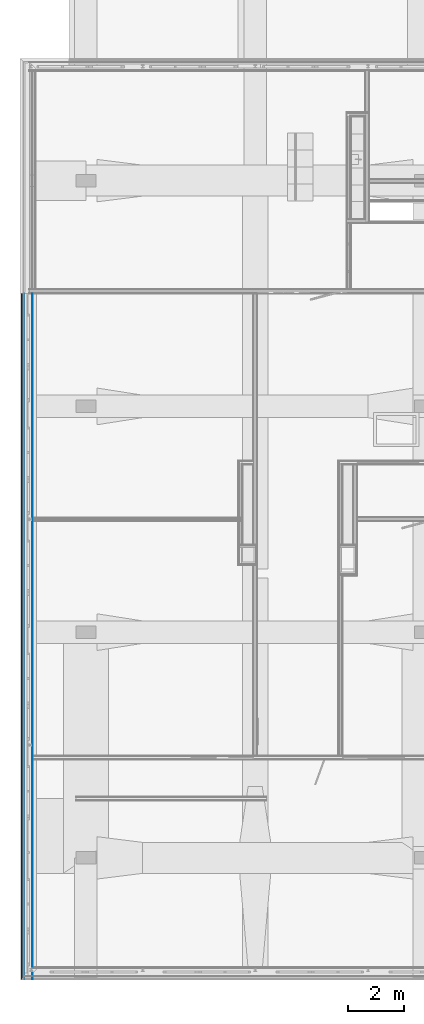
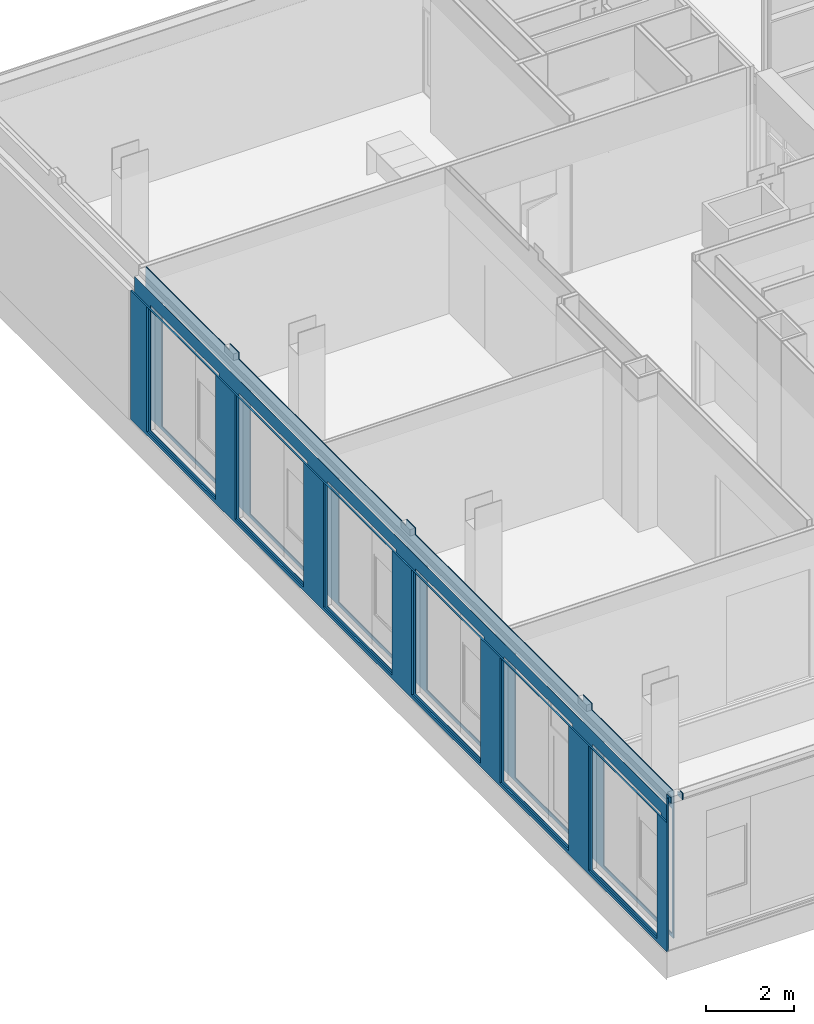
# One storey, part 36 of 94: 5 building element parts, 12 openings, 1 element without a shape of its own.
"""IFC2X3 building model written with IfcOpenShell, lengths in millimetres."""

import ifcopenshell
import ifcopenshell.guid

model = None  # the IFC model being written
_history = None  # IfcOwnerHistory: only IFC2X3 demands one
_inside = {}  # id of a spatial element -> (the spatial element, [elements in it])
_under = {}  # id of a project, library or spatial element -> (it, [spatial elements below it])
_declared = {}  # id of a project -> (the project, [libraries it declares])
_typed = {}  # id of a type object -> (the type object, [elements of that type])
_made_of = {}  # id of a material, layer set ... -> (it, [elements and type objects made of it])


def new_model(schema):
    """Start an empty IFC model of exactly this schema.

    Asked for "IFC4X3", IfcOpenShell would pick the latest addendum, in which some entities
    have other attributes; the version numbers below select the first issue.
    IFC2X3 requires an IfcOwnerHistory on every rooted entity: one is made here for all.
    """
    global model, _history
    if schema == "IFC4X3":
        model = ifcopenshell.file(schema_version=(4, 3, 0, 0))
    else:
        model = ifcopenshell.file(schema=schema)
    _inside.clear()
    _under.clear()
    _declared.clear()
    _typed.clear()
    _made_of.clear()
    _history = None
    if model.schema == "IFC2X3":
        org = make("IfcOrganization", Name="unknown")
        user = make(
            "IfcPersonAndOrganization",
            ThePerson=make("IfcPerson", FamilyName="unknown"),
            TheOrganization=org,
        )
        app = make(
            "IfcApplication",
            ApplicationDeveloper=org,
            Version="unknown",
            ApplicationFullName="unknown",
            ApplicationIdentifier="unknown",
        )
        _history = make(
            "IfcOwnerHistory",
            OwningUser=user,
            OwningApplication=app,
            ChangeAction="ADDED",
            CreationDate=0,
        )
    return model


def make(cls, **values):
    """One entity of the class cls with the attributes given. An attribute that is None is left unset."""
    return model.create_entity(
        cls, **{name: value for name, value in values.items() if value is not None}
    )


def entity(cls, *values):
    """Any entity or typed value of the class cls, its attributes in the order of the schema. None: left unset."""
    e = model.create_entity(cls)
    for i, value in enumerate(values):
        if value is not None:
            e[i] = value
    return e


def rooted(cls, **values):
    """An entity with a GlobalId (a new one), such as an element, a storey or a relation."""
    return make(cls, GlobalId=ifcopenshell.guid.new(), OwnerHistory=_history, **values)


def si_unit(unit_type, name, prefix=None):
    """IfcSIUnit, for example si_unit("LENGTHUNIT", "METRE", prefix="MILLI")."""
    return make("IfcSIUnit", UnitType=unit_type, Prefix=prefix, Name=name)


def converted_unit(unit_type, name, factor, base, dimensions=None, offset=None):
    """IfcConversionBasedUnit, such as the inch: factor (a typed value) times the base unit."""
    return make(
        "IfcConversionBasedUnit"
        if offset is None
        else "IfcConversionBasedUnitWithOffset",
        ConversionOffset=offset,
        Dimensions=None
        if dimensions is None
        else entity("IfcDimensionalExponents", *dimensions),
        UnitType=unit_type,
        Name=name,
        ConversionFactor=make(
            "IfcMeasureWithUnit", ValueComponent=factor, UnitComponent=base
        ),
    )


def derived_unit(unit_type, elements):
    """IfcDerivedUnit: a product of units, each with its exponent."""
    return make(
        "IfcDerivedUnit",
        Elements=[
            make("IfcDerivedUnitElement", Unit=unit, Exponent=power)
            for unit, power in elements
        ],
        UnitType=unit_type,
    )


def money_unit(currency):
    """IfcMonetaryUnit."""
    return make("IfcMonetaryUnit", Currency=currency)


def assignment(units):
    """IfcUnitAssignment: the units of a project."""
    return None if units is None else make("IfcUnitAssignment", Units=units)


def point(xyz):
    """IfcCartesianPoint."""
    return None if xyz is None else make("IfcCartesianPoint", Coordinates=xyz)


def direction(xyz):
    """IfcDirection."""
    return None if xyz is None else make("IfcDirection", DirectionRatios=xyz)


def frame(location, z_axis=None, x_axis=None):
    """IfcAxis2Placement3D, a coordinate frame: its origin and axes. An axis left out is left unset."""
    return make(
        "IfcAxis2Placement3D",
        Location=point(location),
        Axis=direction(z_axis),
        RefDirection=direction(x_axis),
    )


def origin_with_axes():
    """The frame at (0, 0, 0) with the z axis (0, 0, 1) and the x axis (1, 0, 0) written out."""
    return frame((0.0, 0.0, 0.0), z_axis=(0.0, 0.0, 1.0), x_axis=(1.0, 0.0, 0.0))


def place(relative_to, where):
    """IfcLocalPlacement: puts the frame where relative to a parent placement (None: the world)."""
    return make(
        "IfcLocalPlacement", PlacementRelTo=relative_to, RelativePlacement=where
    )


def context(
    kind, dimensions, precision=None, world=None, true_north=None, identifier=None
):
    """IfcGeometricRepresentationContext, for example the 3D "Model" context."""
    return make(
        "IfcGeometricRepresentationContext",
        ContextIdentifier=identifier,
        ContextType=kind,
        CoordinateSpaceDimension=dimensions,
        Precision=precision,
        WorldCoordinateSystem=world,
        TrueNorth=true_north,
    )


def subcontext(parent, identifier, kind, view, scale=None):
    """IfcGeometricRepresentationSubContext, for example "Body" below "Model"."""
    return make(
        "IfcGeometricRepresentationSubContext",
        ContextIdentifier=identifier,
        ContextType=kind,
        ParentContext=parent,
        TargetScale=scale,
        TargetView=view,
    )


def project(units=None, contexts=None):
    """IfcProject with its units and contexts."""
    return rooted(
        "IfcProject",
        Name="project",
        RepresentationContexts=contexts,
        UnitsInContext=assignment(units),
    )


def spatial(cls, under=None, at=None, **own):
    """A site, building, storey or space (cls), placed at a placement, below another one or the project."""
    s = rooted(cls, ObjectPlacement=at, **own)
    if under is not None:
        _under.setdefault(under.id(), (under, []))[1].append(s)
    return s


def faces_of(points, faces, orient=None, outer=None):
    """IfcFace entities. A face is a list of loops; a loop is a list of indices into points, from 0.

    orient and outer hold one flag for each loop. By default every Orientation is true, the
    first loop of a face is its IfcFaceOuterBound and the others are IfcFaceBound.
    """
    made = []
    for i, loops in enumerate(faces):
        bounds = []
        for j, loop in enumerate(loops):
            is_outer = j == 0 if outer is None else outer[i][j]
            bounds.append(
                make(
                    "IfcFaceOuterBound" if is_outer else "IfcFaceBound",
                    Bound=make("IfcPolyLoop", Polygon=[points[k] for k in loop]),
                    Orientation=True if orient is None else orient[i][j],
                )
            )
        made.append(make("IfcFace", Bounds=bounds))
    return made


def faceted_brep(points, faces, orient=None, outer=None, voids=None):
    """IfcFacetedBrep: a solid bounded by flat faces; with voids (closed shells), ...WithVoids."""
    shared = [point(p) for p in points]
    hull = make("IfcClosedShell", CfsFaces=faces_of(shared, faces, orient, outer))
    if voids is None:
        return make("IfcFacetedBrep", Outer=hull)
    return make(
        "IfcFacetedBrepWithVoids",
        Outer=hull,
        Voids=[
            make(cls, CfsFaces=faces_of(shared, fs, o, b)) for cls, fs, o, b in voids
        ],
    )


def shape(context_of_items, identifier, shape_type, items):
    """IfcShapeRepresentation: the items that make up one representation, for example the "Body"."""
    return make(
        "IfcShapeRepresentation",
        ContextOfItems=context_of_items,
        RepresentationIdentifier=identifier,
        RepresentationType=shape_type,
        Items=items,
    )


def material(Name=None, Category=None):
    """IfcMaterial."""
    return make("IfcMaterial", Name=Name, Category=Category)


def made_of(thing, what):
    """Note that an element or type object is made of a material, layer set ...; save() writes the relation."""
    if what is not None:
        _made_of.setdefault(what.id(), (what, []))[1].append(thing)
    return thing


def type_object(cls, material=None, **own):
    """A type object (cls), such as IfcWallType, which elements share."""
    return made_of(rooted(cls, **own), material)


def element(
    cls,
    number,
    at=None,
    inside=None,
    cuts=None,
    type_object=None,
    material=None,
    context=None,
    identifier="Body",
    shape_type=None,
    held_by="IfcProductDefinitionShape",
    body=None,
    shapes=None,
    **own,
):
    """One element of the class cls, such as IfcWall. Its Tag is "e" and its number.

    at: its placement. inside: the storey or other place that contains it. cuts: it is an
    opening in that element (IfcRelVoidsElement). A single representation is given by context,
    identifier, shape_type and body (its items); several are given by shapes. held_by: the class
    of the entity that holds the representations. save() writes the other relations.
    """
    e = rooted(cls, Tag="e%d" % number, ObjectPlacement=at, **own)
    if body is not None:
        shapes = [shape(context, identifier, shape_type, body)]
    if shapes is not None:
        e.Representation = make(held_by, Representations=shapes)
    if inside is not None:
        _inside.setdefault(inside.id(), (inside, []))[1].append(e)
    if cuts is not None:
        rooted(
            "IfcRelVoidsElement", RelatingBuildingElement=cuts, RelatedOpeningElement=e
        )
    if type_object is not None:
        _typed.setdefault(type_object.id(), (type_object, []))[1].append(e)
    return made_of(e, material)


def aggregate(whole, parts):
    """IfcRelAggregates: a whole, such as a stair, and the parts it consists of."""
    return rooted("IfcRelAggregates", RelatingObject=whole, RelatedObjects=parts)


def save(model, path):
    """Write the relations noted so far, then the file.

    IfcRelAggregates (storeys below a building ...), IfcRelContainedInSpatialStructure (elements
    in a storey), IfcRelDefinesByType, IfcRelAssociatesMaterial and IfcRelDeclares: one each for
    every whole, place, type object, material and project.
    """
    for whole, parts in _under.values():
        aggregate(whole, parts)
    for where, things in _inside.values():
        rooted(
            "IfcRelContainedInSpatialStructure",
            RelatedElements=things,
            RelatingStructure=where,
        )
    for kind, things in _typed.values():
        rooted("IfcRelDefinesByType", RelatedObjects=things, RelatingType=kind)
    for what, things in _made_of.values():
        rooted("IfcRelAssociatesMaterial", RelatedObjects=things, RelatingMaterial=what)
    for by, libraries in _declared.values():
        rooted("IfcRelDeclares", RelatingContext=by, RelatedDefinitions=libraries)
    model.write(path)


model = new_model("IFC2X3")

# Units and contexts
model_context = context("Model", 3, precision=0.01, world=origin_with_axes(), true_north=direction((0.0, 1.0)))
body_context = subcontext(model_context, "Body", "Model", "MODEL_VIEW")
ifc_project = project(units=[si_unit("LENGTHUNIT", "METRE", prefix="MILLI"), si_unit("AREAUNIT", "SQUARE_METRE"), si_unit("VOLUMEUNIT", "CUBIC_METRE"), converted_unit("PLANEANGLEUNIT", "DEGREE", entity("IfcPlaneAngleMeasure", 0.0174532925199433), si_unit("PLANEANGLEUNIT", "RADIAN"), dimensions=[0, 0, 0, 0, 0, 0, 0]), money_unit("EUR"), converted_unit("TIMEUNIT", "Year", entity("IfcTimeMeasure", 31557600.0), si_unit("TIMEUNIT", "SECOND"), dimensions=[0, 0, 1, 0, 0, 0, 0]), si_unit("MASSUNIT", "GRAM", prefix="KILO"), si_unit("THERMODYNAMICTEMPERATUREUNIT", "DEGREE_CELSIUS"), si_unit("LUMINOUSINTENSITYUNIT", "LUMEN"), si_unit("ENERGYUNIT", "JOULE", prefix="MEGA"), derived_unit("THERMALCONDUCTANCEUNIT", [(si_unit("POWERUNIT", "WATT"), 1), (si_unit("LENGTHUNIT", "METRE"), -1), (si_unit("THERMODYNAMICTEMPERATUREUNIT", "KELVIN"), -1)]), derived_unit("SPECIFICHEATCAPACITYUNIT", [(si_unit("ENERGYUNIT", "JOULE"), 1), (si_unit("MASSUNIT", "GRAM", prefix="KILO"), -1), (si_unit("THERMODYNAMICTEMPERATUREUNIT", "KELVIN"), -1)]), derived_unit("MASSDENSITYUNIT", [(si_unit("MASSUNIT", "GRAM", prefix="KILO"), 1), (si_unit("VOLUMEUNIT", "CUBIC_METRE"), -1)])], contexts=[model_context])

# Site, building, storey
site_placement = place(None, origin_with_axes())
site = spatial("IfcSite", under=ifc_project, at=site_placement, Name="<site naam>", CompositionType="ELEMENT")
building_placement = place(site_placement, origin_with_axes())
building = spatial("IfcBuilding", under=site, at=building_placement, Name="<Naam gebouw>", CompositionType="ELEMENT")
storey_placement = place(building_placement, frame((0.0, 0.0, 4250.0), z_axis=(0.0, 0.0, 1.0), x_axis=(1.0, 0.0, 0.0)))
storey = spatial("IfcBuildingStorey", under=building, at=storey_placement, Name="01 1e verdieping", CompositionType="ELEMENT", Elevation=4250.0)

# Wall, openings, building element parts
wall_type = type_object("IfcWallType", Name="HSB_285 gevelbeplating 420", PredefinedType="NOTDEFINED")
wall_placement = place(storey_placement, frame((-12297.99999999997, 12000.00000000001, 0.0), z_axis=(0.0, 0.0, 1.0), x_axis=(0.0, -1.0, 0.0)))
wall = element("IfcWall", 1, at=wall_placement, inside=storey, type_object=wall_type, Name="21_Binnenwand_HSB_285")
opening_1_placement = place(wall_placement, frame((21651.5, 0.0, 99.99999999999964), z_axis=(0.0, 0.0, 1.0), x_axis=(1.0, 0.0, 0.0)))
element("IfcOpeningElement", 2, at=opening_1_placement, cuts=wall, Name="21_BU-A-12a_305", context=body_context, shape_type="Brep", body=[
    faceted_brep([(918.4999999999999, 212.9999999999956, 3450.0), (-918.4999999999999, 212.9999999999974, 3450.0), (-918.4999999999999, -0.9999999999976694, 3450.0), (918.4999999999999, -0.9999999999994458, 3450.0), (918.4999999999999, 421.0000000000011, 3450.0), (-918.4999999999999, 421.000000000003, 3450.0), (-918.4999999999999, 212.9999999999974, 0.0), (-918.4999999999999, -0.9999999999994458, 0.0), (918.4999999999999, -0.9999999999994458, 0.0), (918.4999999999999, 212.9999999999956, 0.0), (918.4999999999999, 421.0000000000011, 0.0), (-918.4999999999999, 421.000000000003, 0.0)], [[[0, 1, 2, 3]], [[1, 0, 4, 5]], [[1, 6, 7, 2]], [[2, 7, 8, 3]], [[9, 0, 3, 8]], [[0, 9, 10, 4]], [[4, 10, 11, 5]], [[6, 1, 5, 11]], [[6, 9, 8, 7]], [[9, 6, 11, 10]]]),
])
opening_2_placement = place(wall_placement, frame((23203.5, 0.0, 99.99999999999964), z_axis=(0.0, 0.0, 1.0), x_axis=(1.0, 0.0, 0.0)))
element("IfcOpeningElement", 3, at=opening_2_placement, cuts=wall, Name="21_BU-A-12b_305", context=body_context, shape_type="Brep", body=[
    faceted_brep([(633.4999999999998, 212.9999999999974, 3450.0), (-633.4999999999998, 212.9999999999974, 3450.0), (-633.4999999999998, -0.9999999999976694, 3450.0), (633.4999999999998, -0.9999999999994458, 3450.0), (633.4999999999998, 421.0000000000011, 3450.0), (-633.4999999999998, 421.0000000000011, 3450.0), (-633.4999999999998, 212.9999999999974, 0.0), (-633.4999999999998, -0.9999999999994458, 0.0), (633.4999999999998, -0.9999999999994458, 0.0), (633.4999999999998, 212.9999999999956, 0.0), (633.4999999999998, 420.9999999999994, 0.0), (-633.4999999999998, 421.0000000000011, 0.0)], [[[0, 1, 2, 3]], [[1, 0, 4, 5]], [[1, 6, 7, 2]], [[2, 7, 8, 3]], [[9, 0, 3, 8]], [[0, 9, 10, 4]], [[4, 10, 11, 5]], [[6, 1, 5, 11]], [[6, 9, 8, 7]], [[9, 6, 11, 10]]]),
])
opening_3_placement = place(wall_placement, frame((13651.49999999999, 0.0, 99.99999999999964), z_axis=(0.0, 0.0, 1.0), x_axis=(1.0, 0.0, 0.0)))
element("IfcOpeningElement", 4, at=opening_3_placement, cuts=wall, Name="21_BU-A-12a_305", context=body_context, shape_type="Brep", body=[
    faceted_brep([(918.4999999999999, 212.9999999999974, 3450.0), (-918.5, 212.9999999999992, 3450.0), (-918.5, -1.000000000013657, 3450.0), (918.4999999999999, -1.000000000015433, 3450.0), (918.4999999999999, 421.00000000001, 3450.0), (-918.5, 421.0000000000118, 3450.0), (-918.5, 212.9999999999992, 0.0), (-918.5, -1.000000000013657, 0.0), (918.4999999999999, -1.000000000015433, 0.0), (918.4999999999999, 212.9999999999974, 0.0), (918.4999999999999, 421.00000000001, 0.0), (-918.5, 421.0000000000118, 0.0)], [[[0, 1, 2, 3]], [[1, 0, 4, 5]], [[1, 6, 7, 2]], [[2, 7, 8, 3]], [[9, 0, 3, 8]], [[0, 9, 10, 4]], [[4, 10, 11, 5]], [[6, 1, 5, 11]], [[6, 9, 8, 7]], [[9, 6, 11, 10]]]),
])
opening_4_placement = place(wall_placement, frame((15203.49999999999, 0.0, 99.99999999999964), z_axis=(0.0, 0.0, 1.0), x_axis=(1.0, 0.0, 0.0)))
element("IfcOpeningElement", 5, at=opening_4_placement, cuts=wall, Name="21_BU-A-12b_305", context=body_context, shape_type="Brep", body=[
    faceted_brep([(633.4999999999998, 212.9999999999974, 3450.0), (-633.4999999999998, 212.9999999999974, 3450.0), (-633.4999999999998, -0.9999999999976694, 3450.0), (633.4999999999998, -0.9999999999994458, 3450.0), (633.4999999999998, 421.0000000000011, 3450.0), (-633.4999999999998, 421.0000000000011, 3450.0), (-633.4999999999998, 212.9999999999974, 0.0), (-633.4999999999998, -0.9999999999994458, 0.0), (633.4999999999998, -0.9999999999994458, 0.0), (633.4999999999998, 212.9999999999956, 0.0), (633.4999999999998, 420.9999999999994, 0.0), (-633.4999999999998, 421.0000000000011, 0.0)], [[[0, 1, 2, 3]], [[1, 0, 4, 5]], [[1, 6, 7, 2]], [[2, 7, 8, 3]], [[9, 0, 3, 8]], [[0, 9, 10, 4]], [[4, 10, 11, 5]], [[6, 1, 5, 11]], [[6, 9, 8, 7]], [[9, 6, 11, 10]]]),
])
opening_5_placement = place(wall_placement, frame((11203.48397384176, 0.0, 99.99999999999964), z_axis=(0.0, 0.0, 1.0), x_axis=(1.0, 0.0, 0.0)))
element("IfcOpeningElement", 6, at=opening_5_placement, cuts=wall, Name="21_BU-A-12b_305", context=body_context, shape_type="Brep", body=[
    faceted_brep([(633.5, 212.9999999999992, 3450.0), (-633.5, 212.9999999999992, 3450.0), (-633.5, -1.000000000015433, 3450.0), (633.5, -1.000000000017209, 3450.0), (633.5, 421.0000000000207, 3450.0), (-633.5, 421.0000000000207, 3450.0), (-633.5, 212.9999999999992, 0.0), (-633.5, -1.000000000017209, 0.0), (633.5, -1.000000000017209, 0.0), (633.5, 212.9999999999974, 0.0), (633.5, 421.0000000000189, 0.0), (-633.5, 421.0000000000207, 0.0)], [[[0, 1, 2, 3]], [[1, 0, 4, 5]], [[1, 6, 7, 2]], [[2, 7, 8, 3]], [[9, 0, 3, 8]], [[0, 9, 10, 4]], [[4, 10, 11, 5]], [[6, 1, 5, 11]], [[6, 9, 8, 7]], [[9, 6, 11, 10]]]),
])
opening_6_placement = place(wall_placement, frame((5651.499999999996, 0.0, 99.99999999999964), z_axis=(0.0, 0.0, 1.0), x_axis=(1.0, 0.0, 0.0)))
element("IfcOpeningElement", 7, at=opening_6_placement, cuts=wall, Name="21_BU-A-12a_305", context=body_context, shape_type="Brep", body=[
    faceted_brep([(918.4999999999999, 212.9999999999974, 3450.0), (-918.4999999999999, 212.9999999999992, 3450.0), (-918.4999999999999, -1.000000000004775, 3450.0), (918.4999999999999, -1.000000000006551, 3450.0), (918.4999999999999, 421.0000000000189, 3450.0), (-918.4999999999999, 421.0000000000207, 3450.0), (-918.4999999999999, 212.9999999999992, 0.0), (-918.4999999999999, -1.000000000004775, 0.0), (918.4999999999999, -1.000000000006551, 0.0), (918.4999999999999, 212.9999999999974, 0.0), (918.4999999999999, 421.0000000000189, 0.0), (-918.4999999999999, 421.0000000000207, 0.0)], [[[0, 1, 2, 3]], [[1, 0, 4, 5]], [[1, 6, 7, 2]], [[2, 7, 8, 3]], [[9, 0, 3, 8]], [[0, 9, 10, 4]], [[4, 10, 11, 5]], [[6, 1, 5, 11]], [[6, 9, 8, 7]], [[9, 6, 11, 10]]]),
])
opening_7_placement = place(wall_placement, frame((7203.499999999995, 0.0, 99.99999999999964), z_axis=(0.0, 0.0, 1.0), x_axis=(1.0, 0.0, 0.0)))
element("IfcOpeningElement", 8, at=opening_7_placement, cuts=wall, Name="21_BU-A-12b_305", context=body_context, shape_type="Brep", body=[
    faceted_brep([(633.4999999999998, 212.9999999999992, 3450.0), (-633.4999999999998, 212.9999999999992, 3450.0), (-633.4999999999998, -1.000000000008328, 3450.0), (633.4999999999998, -1.000000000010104, 3450.0), (633.4999999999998, 421.0000000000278, 3450.0), (-633.4999999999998, 421.0000000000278, 3450.0), (-633.4999999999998, 212.9999999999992, 0.0), (-633.4999999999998, -1.000000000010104, 0.0), (633.4999999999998, -1.000000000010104, 0.0), (633.4999999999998, 212.9999999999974, 0.0), (633.4999999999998, 421.000000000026, 0.0), (-633.4999999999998, 421.0000000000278, 0.0)], [[[0, 1, 2, 3]], [[1, 0, 4, 5]], [[1, 6, 7, 2]], [[2, 7, 8, 3]], [[9, 0, 3, 8]], [[0, 9, 10, 4]], [[4, 10, 11, 5]], [[6, 1, 5, 11]], [[6, 9, 8, 7]], [[9, 6, 11, 10]]]),
])
opening_8_placement = place(wall_placement, frame((9651.48397384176, 0.0, 99.99999999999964), z_axis=(0.0, 0.0, 1.0), x_axis=(1.0, 0.0, 0.0)))
element("IfcOpeningElement", 9, at=opening_8_placement, cuts=wall, Name="21_BU-A-12a_305", context=body_context, shape_type="Brep", body=[
    faceted_brep([(918.4999999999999, 212.9999999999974, 3450.0), (-918.4999999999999, 212.9999999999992, 3450.0), (-918.4999999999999, -1.000000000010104, 3450.0), (918.4999999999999, -1.00000000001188, 3450.0), (918.4999999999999, 421.0000000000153, 3450.0), (-918.4999999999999, 421.0000000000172, 3450.0), (-918.4999999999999, 212.9999999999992, 0.0), (-918.4999999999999, -1.000000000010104, 0.0), (918.4999999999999, -1.00000000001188, 0.0), (918.4999999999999, 212.9999999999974, 0.0), (918.4999999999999, 421.0000000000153, 0.0), (-918.4999999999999, 421.0000000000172, 0.0)], [[[0, 1, 2, 3]], [[1, 0, 4, 5]], [[1, 6, 7, 2]], [[2, 7, 8, 3]], [[9, 0, 3, 8]], [[0, 9, 10, 4]], [[4, 10, 11, 5]], [[6, 1, 5, 11]], [[6, 9, 8, 7]], [[9, 6, 11, 10]]]),
])
opening_9_placement = place(wall_placement, frame((1651.483973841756, 0.0, 99.99999999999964), z_axis=(0.0, 0.0, 1.0), x_axis=(1.0, 0.0, 0.0)))
element("IfcOpeningElement", 10, at=opening_9_placement, cuts=wall, Name="21_BU-A-12a_305", context=body_context, shape_type="Brep", body=[
    faceted_brep([(918.4999999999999, 212.9999999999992, 3450.0), (-918.4999999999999, 213.000000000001, 3450.0), (-918.4999999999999, -0.9999999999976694, 3450.0), (918.4999999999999, -0.9999999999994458, 3450.0), (918.4999999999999, 421.0000000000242, 3450.0), (-918.4999999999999, 421.000000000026, 3450.0), (-918.4999999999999, 213.000000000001, 0.0), (-918.4999999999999, -0.9999999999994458, 0.0), (918.4999999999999, -0.9999999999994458, 0.0), (918.4999999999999, 212.9999999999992, 0.0), (918.4999999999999, 421.0000000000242, 0.0), (-918.4999999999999, 421.000000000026, 0.0)], [[[0, 1, 2, 3]], [[1, 0, 4, 5]], [[1, 6, 7, 2]], [[2, 7, 8, 3]], [[9, 0, 3, 8]], [[0, 9, 10, 4]], [[4, 10, 11, 5]], [[6, 1, 5, 11]], [[6, 9, 8, 7]], [[9, 6, 11, 10]]]),
])
opening_10_placement = place(wall_placement, frame((17651.5, 0.0, 99.99999999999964), z_axis=(0.0, 0.0, 1.0), x_axis=(1.0, 0.0, 0.0)))
element("IfcOpeningElement", 11, at=opening_10_placement, cuts=wall, Name="21_BU-A-12a_305", context=body_context, shape_type="Brep", body=[
    faceted_brep([(918.4999999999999, 212.9999999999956, 3450.0), (-918.4999999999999, 212.9999999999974, 3450.0), (-918.4999999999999, -0.9999999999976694, 3450.0), (918.4999999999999, -0.9999999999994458, 3450.0), (918.4999999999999, 421.0000000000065, 3450.0), (-918.4999999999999, 421.0000000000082, 3450.0), (-918.4999999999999, 212.9999999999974, 0.0), (-918.4999999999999, -0.9999999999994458, 0.0), (918.4999999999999, -0.9999999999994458, 0.0), (918.4999999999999, 212.9999999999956, 0.0), (918.4999999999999, 421.0000000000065, 0.0), (-918.4999999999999, 421.0000000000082, 0.0)], [[[0, 1, 2, 3]], [[1, 0, 4, 5]], [[1, 6, 7, 2]], [[2, 7, 8, 3]], [[9, 0, 3, 8]], [[0, 9, 10, 4]], [[4, 10, 11, 5]], [[6, 1, 5, 11]], [[6, 9, 8, 7]], [[9, 6, 11, 10]]]),
])
opening_11_placement = place(wall_placement, frame((3203.483973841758, 0.0, 99.99999999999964), z_axis=(0.0, 0.0, 1.0), x_axis=(1.0, 0.0, 0.0)))
element("IfcOpeningElement", 12, at=opening_11_placement, cuts=wall, Name="21_BU-A-12b_305", context=body_context, shape_type="Brep", body=[
    faceted_brep([(633.4999999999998, 213.000000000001, 3450.0), (-633.4999999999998, 213.000000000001, 3450.0), (-633.4999999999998, -0.9999999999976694, 3450.0), (633.4999999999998, -0.9999999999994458, 3450.0), (633.4999999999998, 421.0000000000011, 3450.0), (-633.4999999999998, 421.0000000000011, 3450.0), (-633.4999999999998, 213.000000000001, 0.0), (-633.4999999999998, -0.9999999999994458, 0.0), (633.4999999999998, -0.9999999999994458, 0.0), (633.4999999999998, 212.9999999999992, 0.0), (633.4999999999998, 420.9999999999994, 0.0), (-633.4999999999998, 421.0000000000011, 0.0)], [[[0, 1, 2, 3]], [[1, 0, 4, 5]], [[1, 6, 7, 2]], [[2, 7, 8, 3]], [[9, 0, 3, 8]], [[0, 9, 10, 4]], [[4, 10, 11, 5]], [[6, 1, 5, 11]], [[6, 9, 8, 7]], [[9, 6, 11, 10]]]),
])
opening_12_placement = place(wall_placement, frame((19203.51614474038, 0.0, 102.9999634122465), z_axis=(0.0, 0.0, 1.0), x_axis=(1.0, 0.0, 0.0)))
element("IfcOpeningElement", 13, at=opening_12_placement, cuts=wall, Name="21_BU-A-12c_305", context=body_context, shape_type="Brep", body=[
    faceted_brep([(633.504886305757, 204.9999999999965, 3454.0), (-633.504886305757, 204.9999999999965, 3454.0), (-633.504886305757, -0.9999999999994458, 3454.0), (633.504886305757, -0.9999999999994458, 3454.0), (633.504886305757, 420.9999999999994, 3454.0), (-633.504886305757, 420.9999999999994, 3454.0), (-633.504886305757, 204.9999999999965, 0.0), (-633.504886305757, -0.9999999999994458, 0.0), (633.504886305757, -0.9999999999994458, 0.0), (633.504886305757, 204.9999999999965, 0.0), (633.504886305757, 420.9999999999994, 0.0), (-633.504886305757, 420.9999999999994, 0.0)], [[[0, 1, 2, 3]], [[1, 0, 4, 5]], [[1, 6, 7, 2]], [[2, 7, 8, 3]], [[9, 0, 3, 8]], [[0, 9, 10, 4]], [[4, 10, 11, 5]], [[6, 1, 5, 11]], [[6, 9, 8, 7]], [[9, 6, 11, 10]]]),
])
ifc_material_1 = material(Name="hout_OSB")
building_element_part_1_placement = place(wall_placement, origin_with_axes())
building_element_part_1 = element("IfcBuildingElementPart", 14, at=building_element_part_1_placement, material=ifc_material_1, Name="hout_OSB", context=body_context, shape_type="Brep", body=[
    faceted_brep([(24082.49008809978, 407.4999999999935, 4070.000000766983), (24082.49008809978, 407.4999999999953, 4180.004542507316), (24182.0258295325, 407.4999999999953, 4180.00457070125), (24182.0258295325, 407.4999999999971, 4249.999998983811), (24300.03170931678, 407.4999999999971, 4249.99999897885), (24300.03170931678, 407.4999999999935, 4070.000000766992), (24082.49008809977, 392.4999999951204, 4180.00454543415), (24082.49008809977, 392.4999999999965, 4070.000000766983), (24182.0258295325, 392.4999999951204, 4180.00457070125), (24182.0258295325, 392.4999999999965, 4249.999998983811), (24300.03170931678, 392.4999999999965, 4249.99999897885), (24300.03170931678, 392.4999999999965, 4070.000000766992)], [[[0, 1, 2, 3, 4, 5]], [[6, 1, 0, 7]], [[1, 6, 8, 2]], [[2, 8, 9, 3]], [[10, 4, 3, 9]], [[11, 5, 4, 10]], [[7, 0, 5, 11]], [[6, 7, 11, 10, 9, 8]]]),
    faceted_brep([(19800.0, 407.4999999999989, 4249.999999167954), (19800.0, 392.4999999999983, 4249.999999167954), (20200.0, 392.4999999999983, 4249.999999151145), (20200.0, 407.4999999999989, 4249.999999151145), (19800.0, 407.4999999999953, 4070.000000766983), (19800.0, 392.4999999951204, 4070.000000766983), (3799.999999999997, 392.4999999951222, 4070.000000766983), (-2.528710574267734e-05, 392.4999999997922, 4070.000000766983), (-0.0005966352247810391, 392.499999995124, 3.000000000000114), (16526.56515943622, 392.4999999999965, 3.000000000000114), (16526.56515943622, 392.4999999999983, 0.0), (23907.53170931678, 392.4999999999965, 0.0), (23907.53170931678, 392.4999999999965, 4070.000000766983), (20200.0, 392.4999999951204, 4070.000000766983), (12200.0, 392.4999999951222, 4070.000000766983), (12200.0, 392.4999999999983, 4249.999999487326), (11800.0, 392.4999999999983, 4249.999999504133), (11800.0, 392.4999999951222, 4070.000000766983), (4199.999999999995, 392.4999999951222, 4070.000000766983), (4199.999999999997, 392.4999999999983, 4249.999999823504), (3799.999999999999, 392.4999999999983, 4249.999999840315), (20200.0, 407.4999999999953, 4070.000000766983), (3799.999999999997, 407.4999999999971, 4070.000000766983), (3799.999999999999, 407.4999999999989, 4249.999999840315), (4199.999999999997, 407.4999999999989, 4249.999999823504), (4199.999999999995, 407.4999999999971, 4070.000000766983), (11800.0, 407.4999999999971, 4070.000000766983), (11800.0, 407.4999999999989, 4249.999999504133), (12200.0, 407.4999999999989, 4249.999999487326), (12200.0, 407.4999999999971, 4070.000000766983), (23907.53170931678, 407.4999999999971, 4070.000000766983), (23907.53170931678, 407.4999999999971, 0.0), (16526.56515943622, 407.4999999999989, 0.0), (16526.56515943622, 407.4999999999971, 3.000000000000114), (-0.0007192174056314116, 407.4999999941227, 3.000000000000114), (-3.048248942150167e-05, 407.4999999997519, 4070.000000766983)], [[[0, 1, 2, 3]], [[1, 0, 4, 5]], [[6, 7, 8, 9, 10, 11, 12, 13, 2, 1, 5, 14, 15, 16, 17, 18, 19, 20]], [[21, 3, 2, 13]], [[22, 23, 24, 25, 26, 27, 28, 29, 4, 0, 3, 21, 30, 31, 32, 33, 34, 35]], [[4, 29, 14, 5]], [[22, 35, 7, 6]], [[7, 35, 34, 8]], [[34, 33, 9, 8]], [[32, 10, 9, 33]], [[32, 31, 11, 10]], [[30, 12, 11, 31]], [[30, 21, 13, 12]], [[29, 28, 15, 14]], [[27, 16, 15, 28]], [[16, 27, 26, 17]], [[26, 25, 18, 17]], [[25, 24, 19, 18]], [[23, 20, 19, 24]], [[20, 23, 22, 6]]]),
])
ifc_material_2 = material(Name="gipsplaat")
building_element_part_2_placement = place(wall_placement, origin_with_axes())
building_element_part_2 = element("IfcBuildingElementPart", 15, at=building_element_part_2_placement, material=ifc_material_2, Name="gipsplaat", context=body_context, shape_type="Brep", body=[
    faceted_brep([(24082.49008809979, 419.9999999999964, 4070.000000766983), (24082.49008809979, 419.9999999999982, 4180.004540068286), (24182.0258295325, 419.9999999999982, 4180.00457070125), (24182.0258295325, 419.9999999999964, 4249.999998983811), (24300.03170931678, 419.9999999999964, 4249.99999897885), (24300.03170931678, 419.9999999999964, 4070.000000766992), (24082.49008809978, 407.4999999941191, 4180.004542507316), (24082.49008809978, 407.4999999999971, 4070.000000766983), (24182.0258295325, 407.4999999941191, 4180.00457070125), (24182.0258295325, 407.4999999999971, 4249.999998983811), (24300.03170931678, 407.4999999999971, 4249.99999897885), (24300.03170931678, 407.4999999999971, 4070.000000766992)], [[[0, 1, 2, 3, 4, 5]], [[6, 1, 0, 7]], [[1, 6, 8, 2]], [[2, 8, 9, 3]], [[10, 4, 3, 9]], [[11, 5, 4, 10]], [[7, 0, 5, 11]], [[6, 7, 11, 10, 9, 8]]]),
    faceted_brep([(19800.0, 419.9999999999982, 4249.999999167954), (19800.0, 407.4999999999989, 4249.999999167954), (20200.0, 407.4999999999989, 4249.999999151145), (20200.0, 419.9999999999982, 4249.999999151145), (19800.0, 419.9999999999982, 4070.000000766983), (19800.0, 407.4999999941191, 4070.000000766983), (3799.999999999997, 407.4999999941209, 4070.000000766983), (-3.048248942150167e-05, 407.4999999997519, 4070.000000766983), (-0.0007192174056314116, 407.4999999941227, 3.000000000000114), (16526.56515943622, 407.4999999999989, 3.000000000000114), (16526.56515943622, 407.4999999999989, 0.0), (23892.53170931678, 407.4999999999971, 0.0), (23892.53170931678, 407.4999999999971, 4070.000000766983), (20200.0, 407.4999999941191, 4070.000000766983), (12200.0, 407.4999999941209, 4070.000000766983), (12200.0, 407.4999999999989, 4249.999999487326), (11800.0, 407.4999999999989, 4249.999999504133), (11800.0, 407.4999999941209, 4070.000000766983), (4199.999999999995, 407.4999999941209, 4070.000000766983), (4199.999999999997, 407.4999999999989, 4249.999999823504), (3799.999999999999, 407.4999999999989, 4249.999999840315), (8062.5, 407.4999999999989, 3600.0), (8062.5, 407.4999999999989, 3640.0), (16376.56519732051, 407.4999999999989, 3640.0), (16376.56519732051, 407.4999999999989, 3600.0), (20200.0, 419.9999999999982, 4070.000000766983), (3799.999999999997, 419.9999999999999, 4070.000000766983), (3799.999999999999, 419.9999999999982, 4249.999999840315), (4199.999999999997, 419.9999999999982, 4249.999999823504), (4199.999999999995, 419.9999999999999, 4070.000000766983), (11800.0, 419.9999999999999, 4070.000000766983), (11800.0, 419.9999999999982, 4249.999999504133), (12200.0, 419.9999999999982, 4249.999999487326), (12200.0, 419.9999999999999, 4070.000000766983), (23892.53170931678, 419.9999999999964, 4070.000000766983), (23892.53170931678, 419.9999999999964, 0.0), (16526.56515943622, 419.9999999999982, 0.0), (16526.56515943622, 419.9999999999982, 3.000000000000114), (-0.0008213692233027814, 419.9999999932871, 3.000000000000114), (0.0, 419.9999999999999, 3600.0), (7937.5, 419.9999999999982, 3600.0), (7937.5, 419.9999999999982, 3640.0), (0.0, 419.9999999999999, 3640.0), (0.0, 419.9999999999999, 4070.000000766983), (16376.56519732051, 419.9999999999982, 3640.0), (8062.5, 419.9999999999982, 3640.0), (8062.5, 419.9999999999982, 3600.0), (16376.56519732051, 419.9999999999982, 3600.0), (23884.0, 419.9999999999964, 3640.0), (16526.56522072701, 419.9999999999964, 3640.0), (16526.56522072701, 419.9999999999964, 3600.0), (23884.0, 419.9999999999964, 3600.0), (0.0, 413.9999999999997, 3640.0), (0.0, 413.9999999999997, 3600.0), (7937.5, 413.9999999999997, 3600.0), (7937.5, 413.9999999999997, 3640.0), (23884.0, 413.9999999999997, 3640.0), (16526.56522072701, 413.9999999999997, 3640.0), (16526.56522072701, 413.9999999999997, 3600.0), (23884.0, 413.9999999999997, 3600.0)], [[[0, 1, 2, 3]], [[1, 0, 4, 5]], [[6, 7, 8, 9, 10, 11, 12, 13, 2, 1, 5, 14, 15, 16, 17, 18, 19, 20], [21, 22, 23, 24]], [[25, 3, 2, 13]], [[26, 27, 28, 29, 30, 31, 32, 33, 4, 0, 3, 25, 34, 35, 36, 37, 38, 39, 40, 41, 42, 43], [44, 45, 46, 47], [48, 49, 50, 51]], [[4, 33, 14, 5]], [[26, 43, 7, 6]], [[7, 43, 42, 52, 53, 39, 38, 8]], [[38, 37, 9, 8]], [[36, 10, 9, 37]], [[36, 35, 11, 10]], [[34, 12, 11, 35]], [[34, 25, 13, 12]], [[33, 32, 15, 14]], [[31, 16, 15, 32]], [[16, 31, 30, 17]], [[30, 29, 18, 17]], [[29, 28, 19, 18]], [[27, 20, 19, 28]], [[20, 27, 26, 6]], [[45, 22, 21, 46]], [[44, 23, 22, 45]], [[47, 24, 23, 44]], [[46, 21, 24, 47]], [[39, 53, 54, 40]], [[40, 54, 55, 41]], [[42, 41, 55, 52]], [[48, 56, 57, 49]], [[49, 57, 58, 50]], [[50, 58, 59, 51]], [[51, 59, 56, 48]], [[52, 55, 54, 53]], [[57, 56, 59, 58]]]),
])
ifc_material_3 = material(Name="folie_dampdicht")
building_element_part_3_placement = place(wall_placement, origin_with_axes())
building_element_part_3 = element("IfcBuildingElementPart", 16, at=building_element_part_3_placement, material=ifc_material_3, Name="folie_dampdicht", context=body_context, shape_type="Brep", body=[
    faceted_brep([(24082.49008809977, 392.4999999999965, 4070.000000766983), (24082.49008809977, 392.4999999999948, 4180.00454543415), (24182.0258295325, 392.4999999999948, 4180.00457070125), (24182.0258295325, 392.4999999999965, 4249.999998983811), (24300.03170931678, 392.4999999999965, 4249.99999897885), (24300.03170931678, 392.4999999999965, 4070.000000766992), (24082.49008809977, 391.9999999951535, 4180.004545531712), (24082.49008809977, 391.9999999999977, 4070.000000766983), (24182.0258295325, 391.9999999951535, 4180.00457070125), (24182.0258295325, 391.9999999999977, 4249.999998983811), (24300.03170931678, 391.9999999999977, 4249.99999897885), (24300.03170931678, 391.9999999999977, 4070.000000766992)], [[[0, 1, 2, 3, 4, 5]], [[6, 1, 0, 7]], [[1, 6, 8, 2]], [[2, 8, 9, 3]], [[10, 4, 3, 9]], [[11, 5, 4, 10]], [[7, 0, 5, 11]], [[6, 7, 11, 10, 9, 8]]]),
    faceted_brep([(19800.0, 392.4999999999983, 4249.999999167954), (19800.0, 391.9999999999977, 4249.999999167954), (20200.0, 391.9999999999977, 4249.999999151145), (20200.0, 392.4999999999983, 4249.999999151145), (19800.0, 392.4999999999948, 4070.000000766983), (19800.0, 391.9999999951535, 4070.000000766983), (3799.999999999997, 391.9999999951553, 4070.000000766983), (-2.511392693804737e-05, 391.9999999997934, 4070.000000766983), (-0.0005925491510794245, 391.9999999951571, 3.000000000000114), (16526.56515943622, 391.9999999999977, 3.000000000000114), (16526.56515943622, 391.9999999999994, 0.0), (23908.03170931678, 391.9999999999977, 0.0), (23908.03170931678, 391.9999999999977, 4070.000000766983), (20200.0, 391.9999999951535, 4070.000000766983), (12200.0, 391.9999999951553, 4070.000000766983), (12200.0, 391.9999999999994, 4249.999999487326), (11800.0, 391.9999999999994, 4249.999999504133), (11800.0, 391.9999999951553, 4070.000000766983), (4199.999999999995, 391.9999999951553, 4070.000000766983), (4199.999999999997, 391.9999999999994, 4249.999999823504), (3799.999999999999, 391.9999999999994, 4249.999999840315), (20200.0, 392.4999999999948, 4070.000000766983), (3799.999999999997, 392.4999999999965, 4070.000000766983), (3799.999999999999, 392.4999999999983, 4249.999999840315), (4199.999999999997, 392.4999999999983, 4249.999999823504), (4199.999999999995, 392.4999999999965, 4070.000000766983), (11800.0, 392.4999999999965, 4070.000000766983), (11800.0, 392.4999999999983, 4249.999999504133), (12200.0, 392.4999999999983, 4249.999999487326), (12200.0, 392.4999999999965, 4070.000000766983), (23908.03170931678, 392.4999999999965, 4070.000000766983), (23908.03170931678, 392.4999999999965, 0.0), (16526.56515943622, 392.4999999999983, 0.0), (16526.56515943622, 392.4999999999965, 3.000000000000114), (-0.0005966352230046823, 392.499999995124, 3.000000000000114), (-2.528710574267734e-05, 392.4999999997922, 4070.000000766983)], [[[0, 1, 2, 3]], [[1, 0, 4, 5]], [[6, 7, 8, 9, 10, 11, 12, 13, 2, 1, 5, 14, 15, 16, 17, 18, 19, 20]], [[21, 3, 2, 13]], [[22, 23, 24, 25, 26, 27, 28, 29, 4, 0, 3, 21, 30, 31, 32, 33, 34, 35]], [[4, 29, 14, 5]], [[22, 35, 7, 6]], [[7, 35, 34, 8]], [[34, 33, 9, 8]], [[32, 10, 9, 33]], [[32, 31, 11, 10]], [[30, 12, 11, 31]], [[30, 21, 13, 12]], [[29, 28, 15, 14]], [[27, 16, 15, 28]], [[16, 27, 26, 17]], [[26, 25, 18, 17]], [[25, 24, 19, 18]], [[23, 20, 19, 24]], [[20, 23, 22, 6]]]),
])
ifc_material_4 = material(Name="brandwerende_bekleding")
building_element_part_4_placement = place(wall_placement, origin_with_axes())
building_element_part_4 = element("IfcBuildingElementPart", 17, at=building_element_part_4_placement, material=ifc_material_4, Name="brandwerende_bekleding", context=body_context, shape_type="Brep", body=[
    faceted_brep([(24082.49008809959, 102.4999999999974, 4220.000040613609), (24082.49008809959, 106.9999999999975, 4220.000040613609), (24082.49008809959, 106.9999999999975, 3909.999659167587), (24082.49008809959, 102.4999999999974, 3909.999659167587), (24274.99008809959, 106.9999999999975, 4220.000040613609), (24274.99008809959, 102.4999999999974, 4220.000040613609), (24274.99008809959, 106.9999999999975, 4249.999998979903), (24300.03170931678, 106.9999999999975, 4249.99999897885), (24300.03170931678, 106.999999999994, 4070.000000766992), (24197.53170931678, 106.9999999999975, 4070.000000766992), (24197.53170931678, 106.9999999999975, 0.0), (0.0, 106.9999999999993, 0.0), (0.0, 107.0000000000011, 3609.99927844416), (24017.53030818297, 106.9999999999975, 3609.99927844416), (24017.53014102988, 106.9999999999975, 3618.499636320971), (0.0, 107.0000000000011, 3618.499636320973), (0.0, 107.0000000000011, 3801.499799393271), (24017.53014102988, 106.9999999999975, 3801.499799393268), (24017.53030818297, 106.9999999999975, 3809.999956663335), (0.0, 107.0000000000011, 3809.999956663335), (0.0, 107.0000000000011, 3909.999659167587), (0.0, 102.5000000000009, 3909.999659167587), (0.0, 102.4999999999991, 0.0), (24197.53170931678, 102.4999999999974, 0.0), (24197.53170931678, 102.4999999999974, 4070.000000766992), (24300.03170931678, 102.4999999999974, 4070.000000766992), (24300.03170931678, 102.4999999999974, 4249.99999897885), (24274.99008809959, 102.4999999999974, 4249.999998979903), (0.0, 102.9985885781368, 3809.999956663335), (0.0, 102.9987557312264, 3801.499799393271), (0.0, 102.9987557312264, 3618.499636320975), (0.0, 102.9985885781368, 3609.99927844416), (24017.53030818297, 102.9985885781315, 3609.99927844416), (24017.53014102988, 102.9987557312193, 3618.499636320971), (24017.53014102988, 102.9987557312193, 3801.499799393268), (24017.53030818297, 102.9985885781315, 3809.999956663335)], [[[0, 1, 2, 3]], [[4, 1, 0, 5]], [[4, 6, 7, 8, 9, 10, 11, 12, 13, 14, 15, 16, 17, 18, 19, 20, 2, 1]], [[3, 2, 20, 21]], [[5, 0, 3, 21, 22, 23, 24, 25, 26, 27]], [[27, 6, 4, 5]], [[6, 27, 26, 7]], [[8, 7, 26, 25]], [[9, 8, 25, 24]], [[9, 24, 23, 10]], [[23, 22, 11, 10]], [[22, 21, 20, 19, 28, 29, 16, 15, 30, 31, 12, 11]], [[12, 31, 32, 13]], [[32, 33, 14, 13]], [[30, 15, 14, 33]], [[16, 29, 34, 17]], [[34, 35, 18, 17]], [[28, 19, 18, 35]], [[29, 28, 35, 34]], [[31, 30, 33, 32]]]),
])
ifc_material_5 = material(Name="metaal - Aluminium gevelplaat")
building_element_part_5_placement = place(wall_placement, origin_with_axes())
building_element_part_5 = element("IfcBuildingElementPart", 18, at=building_element_part_5_placement, material=ifc_material_5, Name="metaal - Aluminium gevelplaat", context=body_context, shape_type="Brep", body=[
    faceted_brep([(0.0, 32.99999570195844, 3560.000103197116), (0.0, 40.00000000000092, 3560.000103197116), (0.0, 39.99999999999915, 0.0), (0.0, 0.0, 0.0), (0.0, 0.0, 3560.000103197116), (0.0, 3.000004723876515, 3560.000103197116), (24274.99008809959, 39.99999999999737, 3560.000103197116), (24274.99008809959, 32.99999570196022, 3560.000103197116), (24274.99008809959, 39.99999999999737, 4249.999998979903), (24300.03170931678, 39.99999999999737, 4249.99999897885), (24300.03170931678, 39.99999999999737, 4070.000000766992), (24300.03170931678, 39.99999999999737, 0.0), (24300.03170931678, 0.0, 0.0), (24274.99008809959, 0.0, 3560.000103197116), (24300.03170931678, 0.0, 4070.000000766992), (24300.03170931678, 0.0, 4249.99999897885), (24274.99008809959, 0.0, 4249.999998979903), (24274.99008809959, 3.000004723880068, 3560.000103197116), (24274.99008809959, 32.99999570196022, 4249.99999897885), (24274.99008809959, 32.99999570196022, 3590.000026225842), (24274.99008809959, 3.000004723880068, 4249.99999897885), (24274.99008809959, 3.000004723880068, 3590.000026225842)], [[[0, 1, 2, 3, 4, 5]], [[6, 1, 0, 7]], [[6, 8, 9, 10, 11, 2, 1]], [[2, 11, 12, 3]], [[13, 4, 3, 12, 14, 15, 16]], [[17, 5, 4, 13]], [[7, 0, 5, 17]], [[18, 8, 6, 7, 19]], [[8, 18, 20, 16, 15, 9]], [[15, 14, 10, 9]], [[12, 11, 10, 14]], [[16, 20, 21, 17, 13]], [[19, 7, 17, 21, 20, 18]]]),
])
aggregate(wall, [building_element_part_1, building_element_part_2, building_element_part_3, building_element_part_4, building_element_part_5])

save(model, "model.ifc")
